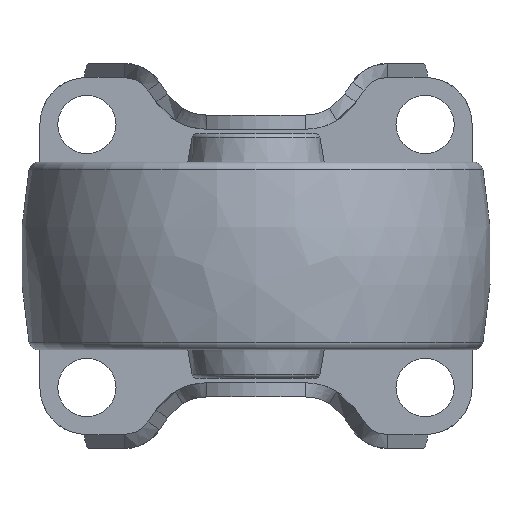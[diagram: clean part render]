
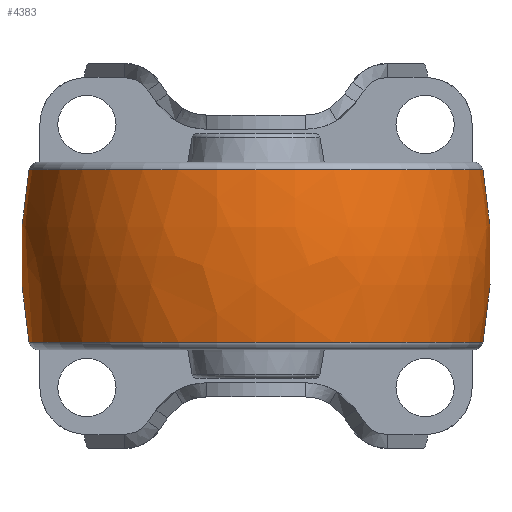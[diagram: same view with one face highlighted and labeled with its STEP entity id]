
A CAD part, front view. The second image highlights one B-rep face of the part: STEP entity #4383.
In plain terms, the highlighted free-form (B-spline) face has degree [3, 3] with [7, 4] control points.
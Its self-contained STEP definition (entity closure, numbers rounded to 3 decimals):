
#3733=CARTESIAN_POINT('',(0.,-25.,0.));
#3734=DIRECTION('',(0.,0.,1.));
#3735=DIRECTION('',(0.184,0.983,0.));
#3736=AXIS2_PLACEMENT_3D('',#3733,#3734,#3735);
#3738=CARTESIAN_POINT('',(0.,25.,0.));
#3739=DIRECTION('',(0.,0.,-1.));
#3740=DIRECTION('',(0.184,-0.983,0.));
#3741=AXIS2_PLACEMENT_3D('',#3738,#3739,#3740);
#3743=CARTESIAN_POINT('',(9.184,0.,0.));
#3744=DIRECTION('',(-1.,0.,0.));
#3745=DIRECTION('',(0.,1.,0.));
#3746=AXIS2_PLACEMENT_3D('',#3743,#3744,#3745);
#3768=CARTESIAN_POINT('',(-9.184,0.,0.));
#3769=DIRECTION('',(-1.,0.,0.));
#3770=DIRECTION('',(0.,1.,0.));
#3771=AXIS2_PLACEMENT_3D('',#3768,#3769,#3770);
#3984=CARTESIAN_POINT('',(9.184,24.149,0.));
#3986=VERTEX_POINT('',#3984);
#3987=CARTESIAN_POINT('',(-9.184,24.149,0.));
#3988=VERTEX_POINT('',#3987);
#4032=CARTESIAN_POINT('',(9.184,-24.149,0.));
#4034=VERTEX_POINT('',#4032);
#4035=CARTESIAN_POINT('',(-9.184,-24.149,0.));
#4036=VERTEX_POINT('',#4035);
#4345=CARTESIAN_POINT('',(-9.547,-24.033,
1.512));
#4346=CARTESIAN_POINT('',(-3.222,-25.26,
1.589));
#4347=CARTESIAN_POINT('',(3.222,-25.26,1.589));
#4348=CARTESIAN_POINT('',(9.547,-24.033,1.512));
#4349=CARTESIAN_POINT('',(-9.547,-24.963,
-13.278));
#4350=CARTESIAN_POINT('',(-3.222,-26.238,
-13.956));
#4351=CARTESIAN_POINT('',(3.222,-26.238,
-13.956));
#4352=CARTESIAN_POINT('',(9.547,-24.963,
-13.278));
#4353=CARTESIAN_POINT('',(-9.547,-14.819,
-24.08));
#4354=CARTESIAN_POINT('',(-3.222,-15.576,
-25.31));
#4355=CARTESIAN_POINT('',(3.222,-15.576,
-25.31));
#4356=CARTESIAN_POINT('',(9.547,-14.819,
-24.08));
#4357=CARTESIAN_POINT('',(-9.547,0.,-24.08));
#4358=CARTESIAN_POINT('',(-3.222,0.,
-25.31));
#4359=CARTESIAN_POINT('',(3.222,0.,
-25.31));
#4360=CARTESIAN_POINT('',(9.547,0.,
-24.08));
#4361=CARTESIAN_POINT('',(-9.547,14.819,
-24.08));
#4362=CARTESIAN_POINT('',(-3.222,15.576,
-25.31));
#4363=CARTESIAN_POINT('',(3.222,15.576,-25.31));
#4364=CARTESIAN_POINT('',(9.547,14.819,-24.08));
#4365=CARTESIAN_POINT('',(-9.547,24.963,
-13.278));
#4366=CARTESIAN_POINT('',(-3.222,26.238,
-13.956));
#4367=CARTESIAN_POINT('',(3.222,26.238,-13.956));
#4368=CARTESIAN_POINT('',(9.547,24.963,-13.278));
#4369=CARTESIAN_POINT('',(-9.547,24.033,1.512));
#4370=CARTESIAN_POINT('',(-3.222,25.26,1.589));
#4371=CARTESIAN_POINT('',(3.222,25.26,1.589));
#4372=CARTESIAN_POINT('',(9.547,24.033,1.512));
#4373=(BOUNDED_SURFACE()B_SPLINE_SURFACE(3,3,((#4345,#4346,#4347,#4348),(#4349,
#4350,#4351,#4352),(#4353,#4354,#4355,#4356),(#4357,#4358,#4359,#4360),(#4361,
#4362,#4363,#4364),(#4365,#4366,#4367,#4368),(#4369,#4370,#4371,#4372)),
.UNSPECIFIED.,.F.,.F.,.F.)B_SPLINE_SURFACE_WITH_KNOTS((4,3,4),(4,4),(0.,1.,
2.),(0.,1.),.UNSPECIFIED.)GEOMETRIC_REPRESENTATION_ITEM()RATIONAL_B_SPLINE_SURFACE(((1.198,1.184,1.184,1.198),(
0.946,0.935,0.935,0.946),(
0.946,0.935,0.935,0.946),(
1.198,1.184,1.184,1.198),(
0.946,0.935,0.935,0.946),(
0.946,0.935,0.935,0.946),(
1.198,1.184,1.184,1.198)))REPRESENTATION_ITEM('')SURFACE());
#4375=ORIENTED_EDGE('',*,*,#4374,.T.);
#4377=ORIENTED_EDGE('',*,*,#4376,.T.);
#4379=ORIENTED_EDGE('',*,*,#4378,.F.);
#4380=ORIENTED_EDGE('',*,*,#4338,.F.);
#4381=EDGE_LOOP('',(#4375,#4377,#4379,#4380));
#4382=FACE_OUTER_BOUND('',#4381,.F.);
#3737=CIRCLE('',#3736,50.);
#3742=CIRCLE('',#3741,50.);
#3747=CIRCLE('',#3746,24.149);
#3772=CIRCLE('',#3771,24.149);
#4338=EDGE_CURVE('',#3986,#4034,#3747,.T.);
#4374=EDGE_CURVE('',#3986,#3988,#3737,.T.);
#4376=EDGE_CURVE('',#3988,#4036,#3772,.T.);
#4378=EDGE_CURVE('',#4034,#4036,#3742,.T.);
#4383=ADVANCED_FACE('',(#4382),#4373,.T.);
